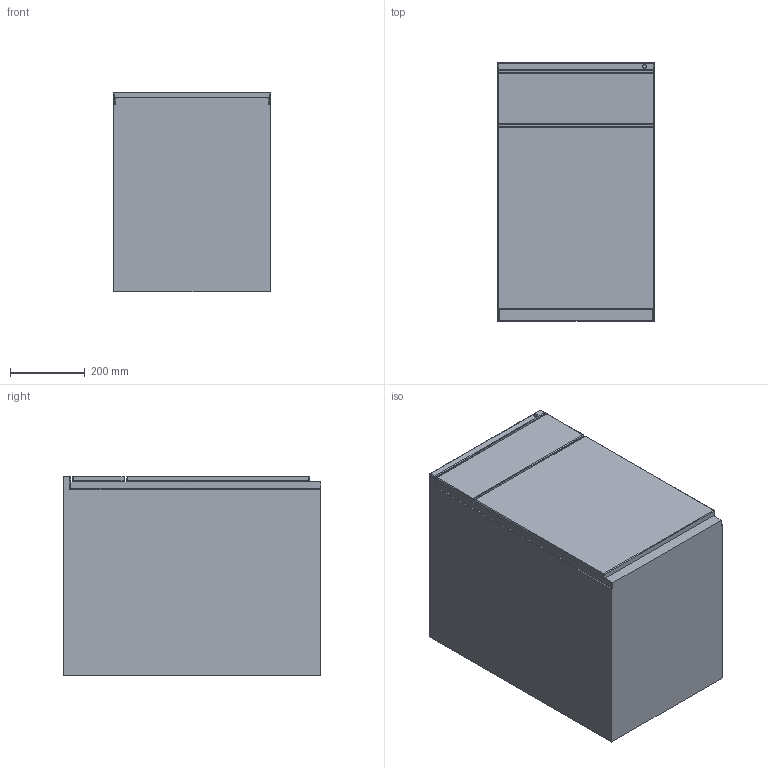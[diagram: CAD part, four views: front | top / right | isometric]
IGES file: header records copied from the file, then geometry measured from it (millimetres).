
Start section: SolidWorks IGES file using NURBS representation for surfaces
Global section: file name: G:\VICCARBE\PRODUCTOS\12-LEG-IN\04-MODELADOS (PLANOS)\SOLIDWORKS\LEG_IN 2011\ENSAMBLAJES\Mesas 3D\IGES\BUCS\CAR.IGS; native system: SolidWorks 2009; preprocessor: SolidWorks 2009; author: RUBEN; date: 111024.104029; units: millimetre
Bounding box: 420 x 690 x 535 mm (x, y, z)
Surface area: 1799002.8 mm2 (no closed solid volume)
Topology: 0 solids, 0 shells, 69 faces, 564 edges, 554 vertices
Faces by surface type: bspline 69
